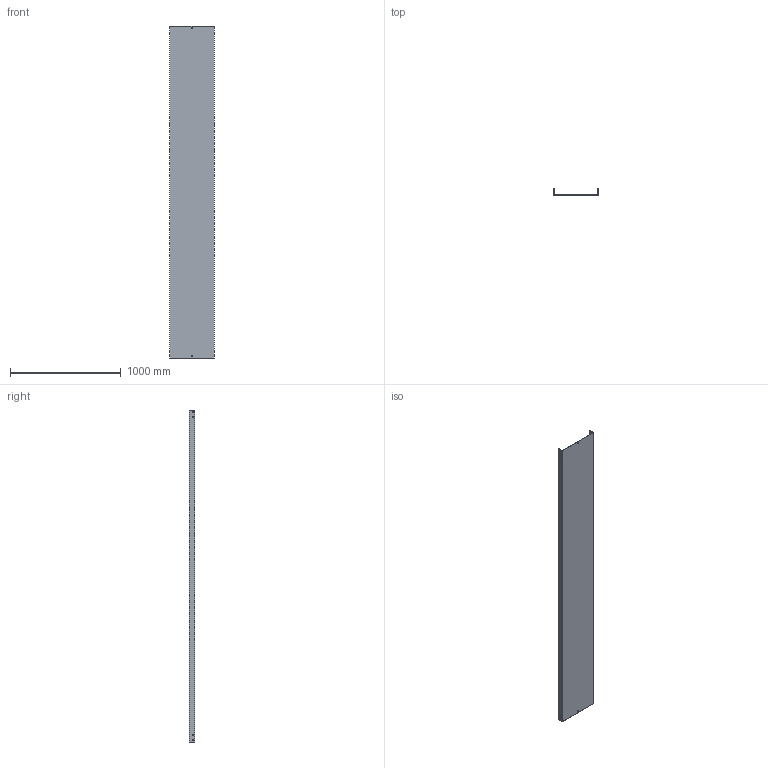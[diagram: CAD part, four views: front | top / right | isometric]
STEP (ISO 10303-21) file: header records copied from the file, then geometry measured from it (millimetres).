
FILE_DESCRIPTION (( 'STEP AP214' ), '1' );
FILE_NAME ('03F3B400.step', '2025-02-21T13:24:19', ( '' ), ( '' ), 'SwSTEP 2.0', 'SolidWorks 2023', '' );
FILE_SCHEMA (( 'AUTOMOTIVE_DESIGN' ));
Length unit declared in the file: millimetre
Products named in the file (1): 03F3B400
Bounding box: 404 x 52 x 3000 mm (x, y, z)
Volume: 5258130.5 mm3; surface area: 3030322 mm2
Topology: 1 solids, 1 shells, 50 faces, 144 edges, 96 vertices
Faces by surface type: plane 50
Entity records: 1671 total; most frequent: CARTESIAN_POINT 291, ORIENTED_EDGE 288, DIRECTION 246, LINE 144, EDGE_CURVE 144, VECTOR 144, VERTEX_POINT 96, EDGE_LOOP 70
